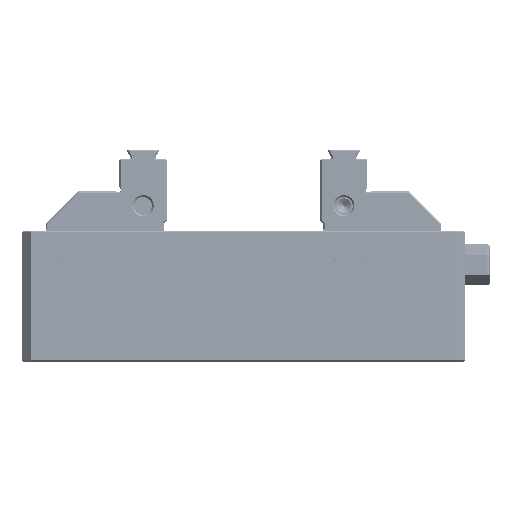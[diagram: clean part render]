
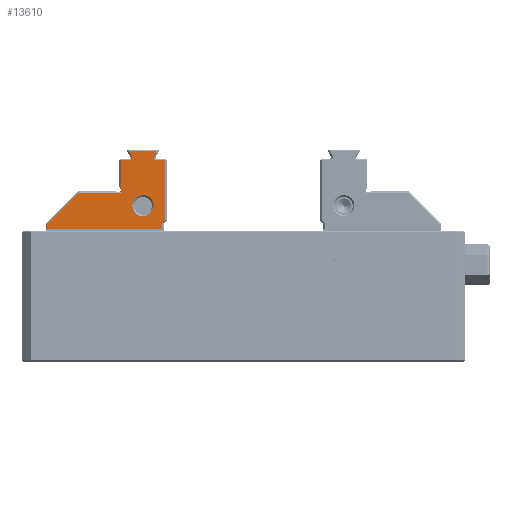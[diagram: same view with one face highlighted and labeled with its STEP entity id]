
A CAD part, left-side view. The second image highlights one B-rep face of the part: STEP entity #13610.
In plain terms, the highlighted planar face has unit normal (-1, 0, 0).
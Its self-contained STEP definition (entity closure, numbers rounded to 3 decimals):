
#13610=ADVANCED_FACE('',(#20862,#20863),#17977,.T.);
#17977=PLANE('',#116125);
#19451=CIRCLE('',#116122,3.6);
#19452=CIRCLE('',#116123,0.9);
#19453=CIRCLE('',#116124,0.9);
#20862=FACE_BOUND('',#26947,.T.);
#20863=FACE_BOUND('',#26948,.T.);
#26947=EDGE_LOOP('',(#58388));
#26948=EDGE_LOOP('',(#58389,#58390,#58391,#58392,#58393,#58394,#58395,#58396,
#58397,#58398,#58399,#58400,#58401,#58402,#58403,#58404,#58405));
#58388=ORIENTED_EDGE('',*,*,#86462,.T.);
#58389=ORIENTED_EDGE('',*,*,#86463,.T.);
#58390=ORIENTED_EDGE('',*,*,#86464,.T.);
#58391=ORIENTED_EDGE('',*,*,#85706,.F.);
#58392=ORIENTED_EDGE('',*,*,#85704,.F.);
#58393=ORIENTED_EDGE('',*,*,#86465,.F.);
#58394=ORIENTED_EDGE('',*,*,#86466,.F.);
#58395=ORIENTED_EDGE('',*,*,#86467,.F.);
#58396=ORIENTED_EDGE('',*,*,#86468,.F.);
#58397=ORIENTED_EDGE('',*,*,#86469,.F.);
#58398=ORIENTED_EDGE('',*,*,#86470,.F.);
#58399=ORIENTED_EDGE('',*,*,#86471,.F.);
#58400=ORIENTED_EDGE('',*,*,#86472,.F.);
#58401=ORIENTED_EDGE('',*,*,#86473,.F.);
#58402=ORIENTED_EDGE('',*,*,#86474,.F.);
#58403=ORIENTED_EDGE('',*,*,#86475,.F.);
#58404=ORIENTED_EDGE('',*,*,#86476,.F.);
#58405=ORIENTED_EDGE('',*,*,#85782,.F.);
#71105=VERTEX_POINT('',#198646);
#71106=VERTEX_POINT('',#198648);
#71107=VERTEX_POINT('',#198652);
#71154=VERTEX_POINT('',#198813);
#71155=VERTEX_POINT('',#198815);
#71816=VERTEX_POINT('',#200795);
#71817=VERTEX_POINT('',#200797);
#71818=VERTEX_POINT('',#200800);
#71819=VERTEX_POINT('',#200802);
#71820=VERTEX_POINT('',#200804);
#71821=VERTEX_POINT('',#200806);
#71822=VERTEX_POINT('',#200808);
#71823=VERTEX_POINT('',#200810);
#71824=VERTEX_POINT('',#200812);
#71825=VERTEX_POINT('',#200814);
#71826=VERTEX_POINT('',#200816);
#71827=VERTEX_POINT('',#200818);
#71828=VERTEX_POINT('',#200820);
#85704=EDGE_CURVE('',#71105,#71106,#97235,.T.);
#85706=EDGE_CURVE('',#71106,#71107,#97237,.T.);
#85782=EDGE_CURVE('',#71154,#71155,#97296,.T.);
#86462=EDGE_CURVE('',#71816,#71816,#19451,.T.);
#86463=EDGE_CURVE('',#71154,#71817,#97734,.T.);
#86464=EDGE_CURVE('',#71817,#71107,#97735,.T.);
#86465=EDGE_CURVE('',#71818,#71105,#19452,.T.);
#86466=EDGE_CURVE('',#71819,#71818,#97736,.T.);
#86467=EDGE_CURVE('',#71820,#71819,#97737,.T.);
#86468=EDGE_CURVE('',#71821,#71820,#97738,.T.);
#86469=EDGE_CURVE('',#71822,#71821,#97739,.T.);
#86470=EDGE_CURVE('',#71823,#71822,#97740,.T.);
#86471=EDGE_CURVE('',#71824,#71823,#19453,.T.);
#86472=EDGE_CURVE('',#71825,#71824,#97741,.T.);
#86473=EDGE_CURVE('',#71826,#71825,#97742,.T.);
#86474=EDGE_CURVE('',#71827,#71826,#97743,.T.);
#86475=EDGE_CURVE('',#71828,#71827,#97744,.T.);
#86476=EDGE_CURVE('',#71155,#71828,#97745,.T.);
#97235=LINE('',#198647,#108510);
#97237=LINE('',#198651,#108512);
#97296=LINE('',#198814,#108571);
#97734=LINE('',#200796,#109009);
#97735=LINE('',#200798,#109010);
#97736=LINE('',#200801,#109011);
#97737=LINE('',#200803,#109012);
#97738=LINE('',#200805,#109013);
#97739=LINE('',#200807,#109014);
#97740=LINE('',#200809,#109015);
#97741=LINE('',#200813,#109016);
#97742=LINE('',#200815,#109017);
#97743=LINE('',#200817,#109018);
#97744=LINE('',#200819,#109019);
#97745=LINE('',#200821,#109020);
#108510=VECTOR('',#138706,1.);
#108512=VECTOR('',#138710,1.);
#108571=VECTOR('',#138881,1.);
#109009=VECTOR('',#139687,1.);
#109010=VECTOR('',#139688,1.);
#109011=VECTOR('',#139691,1.);
#109012=VECTOR('',#139692,1.);
#109013=VECTOR('',#139693,1.);
#109014=VECTOR('',#139694,1.);
#109015=VECTOR('',#139695,1.);
#109016=VECTOR('',#139698,1.);
#109017=VECTOR('',#139699,1.);
#109018=VECTOR('',#139700,1.);
#109019=VECTOR('',#139701,1.);
#109020=VECTOR('',#139702,1.);
#116122=AXIS2_PLACEMENT_3D('',#200794,#139685,#139686);
#116123=AXIS2_PLACEMENT_3D('',#200799,#139689,#139690);
#116124=AXIS2_PLACEMENT_3D('',#200811,#139696,#139697);
#116125=AXIS2_PLACEMENT_3D('',#200822,#139703,#139704);
#138706=DIRECTION('',(0.,-1.,0.));
#138710=DIRECTION('',(0.,0.,-1.));
#138881=DIRECTION('',(0.,1.,0.));
#139685=DIRECTION('',(1.,0.,0.));
#139686=DIRECTION('',(0.,0.,-1.));
#139687=DIRECTION('',(0.,0.,1.));
#139688=DIRECTION('',(0.,-0.707,0.707));
#139689=DIRECTION('',(-1.,0.,0.));
#139690=DIRECTION('',(0.,0.,1.));
#139691=DIRECTION('',(0.,0.5,-0.866));
#139692=DIRECTION('',(0.,0.,-1.));
#139693=DIRECTION('',(0.,-1.,0.));
#139694=DIRECTION('',(0.,0.,1.));
#139695=DIRECTION('',(0.,0.5,0.866));
#139696=DIRECTION('',(-1.,0.,0.));
#139697=DIRECTION('',(0.,0.,1.));
#139698=DIRECTION('',(0.,-1.,0.));
#139699=DIRECTION('',(0.,0.,1.));
#139700=DIRECTION('',(0.,-1.,0.));
#139701=DIRECTION('',(0.,-0.707,0.707));
#139702=DIRECTION('',(0.,0.,1.));
#139703=DIRECTION('',(-1.,0.,0.));
#139704=DIRECTION('',(0.,0.,1.));
#198646=CARTESIAN_POINT('',(2068.552,412.997,608.4));
#198647=CARTESIAN_POINT('',(2068.552,410.136,608.4));
#198648=CARTESIAN_POINT('',(2068.552,410.136,608.4));
#198651=CARTESIAN_POINT('',(2068.552,410.136,589.88));
#198652=CARTESIAN_POINT('',(2068.552,410.136,588.107));
#198813=CARTESIAN_POINT('',(2068.552,411.136,584.9));
#198814=CARTESIAN_POINT('',(2068.552,408.636,584.9));
#198815=CARTESIAN_POINT('',(2068.552,450.136,584.9));
#200794=CARTESIAN_POINT('',(2068.552,417.636,592.9));
#200795=CARTESIAN_POINT('',(2068.552,417.636,589.3));
#200796=CARTESIAN_POINT('',(2068.552,411.136,548.9));
#200797=CARTESIAN_POINT('',(2068.552,411.136,587.107));
#200798=CARTESIAN_POINT('',(2068.552,428.989,569.254));
#200799=CARTESIAN_POINT('',(2068.552,412.997,609.3));
#200800=CARTESIAN_POINT('',(2068.552,413.777,609.75));
#200801=CARTESIAN_POINT('',(2068.552,441.746,561.305));
#200802=CARTESIAN_POINT('',(2068.552,413.122,610.884));
#200803=CARTESIAN_POINT('',(2068.552,413.122,610.64));
#200804=CARTESIAN_POINT('',(2068.552,413.122,611.4));
#200805=CARTESIAN_POINT('',(2068.552,408.136,611.4));
#200806=CARTESIAN_POINT('',(2068.552,422.149,611.4));
#200807=CARTESIAN_POINT('',(2068.552,422.149,611.7));
#200808=CARTESIAN_POINT('',(2068.552,422.149,610.884));
#200809=CARTESIAN_POINT('',(2068.552,388.775,553.078));
#200810=CARTESIAN_POINT('',(2068.552,421.495,609.75));
#200811=CARTESIAN_POINT('',(2068.552,422.274,609.3));
#200812=CARTESIAN_POINT('',(2068.552,422.274,608.4));
#200813=CARTESIAN_POINT('',(2068.552,421.936,608.4));
#200814=CARTESIAN_POINT('',(2068.552,425.136,608.4));
#200815=CARTESIAN_POINT('',(2068.552,425.136,608.4));
#200816=CARTESIAN_POINT('',(2068.552,425.136,597.4));
#200817=CARTESIAN_POINT('',(2068.552,425.636,597.4));
#200818=CARTESIAN_POINT('',(2068.552,439.429,597.4));
#200819=CARTESIAN_POINT('',(2068.552,437.782,599.046));
#200820=CARTESIAN_POINT('',(2068.552,450.136,586.693));
#200821=CARTESIAN_POINT('',(2068.552,450.136,591.9));
#200822=CARTESIAN_POINT('',(2068.552,408.636,548.9));
